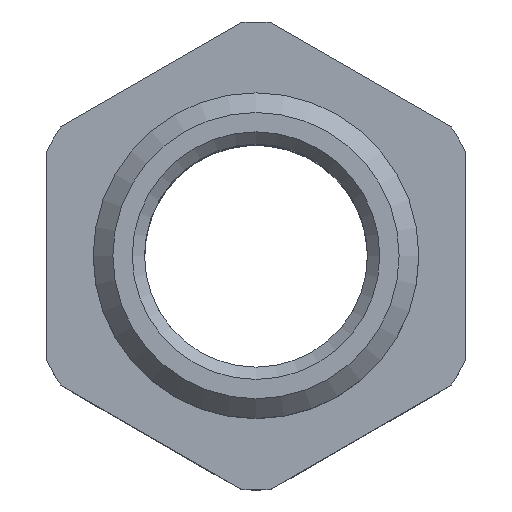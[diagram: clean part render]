
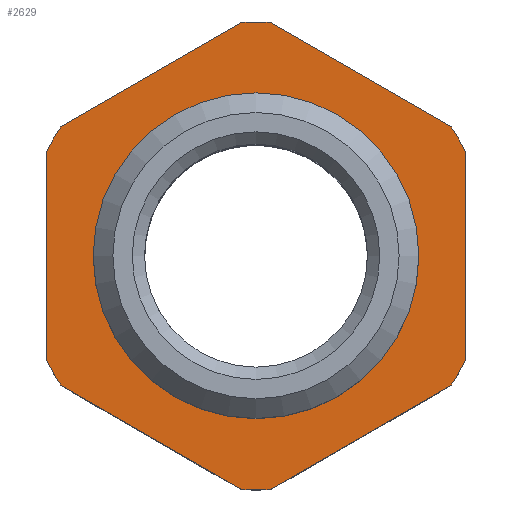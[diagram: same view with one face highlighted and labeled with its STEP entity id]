
A CAD part, top view. The second image highlights one B-rep face of the part: STEP entity #2629.
In plain terms, the highlighted planar face has unit normal (0, 0, 1).
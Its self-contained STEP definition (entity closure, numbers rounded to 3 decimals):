
#15 = VECTOR ( 'NONE', #2339, 1000. ) ;
#29 = CARTESIAN_POINT ( 'NONE',  ( 55.623, 51.032, 83.865 ) ) ;
#37 = DIRECTION ( 'NONE',  ( 1., 0., 0. ) ) ;
#49 = CARTESIAN_POINT ( 'NONE',  ( 71.472, 40.552, 83.865 ) ) ;
#54 = AXIS2_PLACEMENT_3D ( 'NONE', #2344, #76, #37 ) ;
#76 = DIRECTION ( 'NONE',  ( 0., 0., -1. ) ) ;
#81 = CARTESIAN_POINT ( 'NONE',  ( 72.623, 41.217, 83.865 ) ) ;
#94 = LINE ( 'NONE', #153, #221 ) ;
#132 = DIRECTION ( 'NONE',  ( 0., -1., 0. ) ) ;
#153 = CARTESIAN_POINT ( 'NONE',  ( 72.623, 60.847, 83.865 ) ) ;
#177 = DIRECTION ( 'NONE',  ( 0., 1., 0. ) ) ;
#187 = VECTOR ( 'NONE', #699, 1000. ) ;
#200 = CARTESIAN_POINT ( 'NONE',  ( 56.775, 69.997, 83.865 ) ) ;
#221 = VECTOR ( 'NONE', #132, 1000. ) ;
#233 = DIRECTION ( 'NONE',  ( 1., 0., 0. ) ) ;
#255 = EDGE_LOOP ( 'NONE', ( #2572 ) ) ;
#266 = DIRECTION ( 'NONE',  ( 1., 0., 0. ) ) ;
#294 = DIRECTION ( 'NONE',  ( -0.866, -0.5, 0. ) ) ;
#304 = CARTESIAN_POINT ( 'NONE',  ( 55.623, 51.032, 83.865 ) ) ;
#353 = LINE ( 'NONE', #1268, #15 ) ;
#363 = ORIENTED_EDGE ( 'NONE', *, *, #1072, .F. ) ;
#387 = ORIENTED_EDGE ( 'NONE', *, *, #2356, .F. ) ;
#444 = EDGE_CURVE ( 'NONE', #1798, #1368, #1224, .T. ) ;
#487 = CARTESIAN_POINT ( 'NONE',  ( 55.623, 51.032, 83.865 ) ) ;
#511 = FACE_BOUND ( 'NONE', #255, .T. ) ;
#581 = CIRCLE ( 'NONE', #54, 19. ) ;
#587 = LINE ( 'NONE', #2281, #794 ) ;
#634 = ORIENTED_EDGE ( 'NONE', *, *, #833, .F. ) ;
#699 = DIRECTION ( 'NONE',  ( 0.866, -0.5, 0. ) ) ;
#748 = ORIENTED_EDGE ( 'NONE', *, *, #2221, .F. ) ;
#771 = CARTESIAN_POINT ( 'NONE',  ( 55.623, 51.032, 83.865 ) ) ;
#794 = VECTOR ( 'NONE', #177, 1000. ) ;
#805 = LINE ( 'NONE', #1347, #187 ) ;
#816 = ORIENTED_EDGE ( 'NONE', *, *, #444, .F. ) ;
#833 = EDGE_CURVE ( 'NONE', #2639, #2060, #805, .T. ) ;
#842 = CARTESIAN_POINT ( 'NONE',  ( 55.623, 51.032, 83.865 ) ) ;
#905 = DIRECTION ( 'NONE',  ( 1., 0., 0. ) ) ;
#914 = DIRECTION ( 'NONE',  ( 0., 0., 1. ) ) ;
#988 = DIRECTION ( 'NONE',  ( 0., 0., -1. ) ) ;
#1039 = EDGE_CURVE ( 'NONE', #1424, #1574, #1984, .T. ) ;
#1048 = CARTESIAN_POINT ( 'NONE',  ( 39.775, 61.512, 83.865 ) ) ;
#1068 = CARTESIAN_POINT ( 'NONE',  ( 54.472, 69.997, 83.865 ) ) ;
#1072 = EDGE_CURVE ( 'NONE', #2463, #2009, #94, .T. ) ;
#1079 = EDGE_LOOP ( 'NONE', ( #1439, #363, #2476, #634, #387, #748, #1813, #1997, #2364, #1875, #2404, #816 ) ) ;
#1082 = CIRCLE ( 'NONE', #1100, 19. ) ;
#1100 = AXIS2_PLACEMENT_3D ( 'NONE', #29, #1932, #233 ) ;
#1211 = EDGE_CURVE ( 'NONE', #1574, #1982, #587, .T. ) ;
#1224 = LINE ( 'NONE', #81, #1712 ) ;
#1268 = CARTESIAN_POINT ( 'NONE',  ( 55.623, 31.402, 83.865 ) ) ;
#1335 = CARTESIAN_POINT ( 'NONE',  ( 72.623, 59.517, 83.865 ) ) ;
#1347 = CARTESIAN_POINT ( 'NONE',  ( 55.623, 70.662, 83.865 ) ) ;
#1368 = VERTEX_POINT ( 'NONE', #1898 ) ;
#1385 = CIRCLE ( 'NONE', #2687, 19. ) ;
#1389 = CIRCLE ( 'NONE', #2128, 11.5 ) ;
#1408 = DIRECTION ( 'NONE',  ( 0.866, 0.5, 0. ) ) ;
#1424 = VERTEX_POINT ( 'NONE', #2329 ) ;
#1428 = AXIS2_PLACEMENT_3D ( 'NONE', #771, #988, #1641 ) ;
#1439 = ORIENTED_EDGE ( 'NONE', *, *, #2017, .F. ) ;
#1484 = CARTESIAN_POINT ( 'NONE',  ( 54.472, 32.067, 83.865 ) ) ;
#1540 = CARTESIAN_POINT ( 'NONE',  ( 55.623, 51.032, 83.865 ) ) ;
#1557 = DIRECTION ( 'NONE',  ( -1., 0., 0. ) ) ;
#1569 = CARTESIAN_POINT ( 'NONE',  ( 71.472, 61.512, 83.865 ) ) ;
#1574 = VERTEX_POINT ( 'NONE', #2498 ) ;
#1597 = DIRECTION ( 'NONE',  ( 0., 0., -1. ) ) ;
#1625 = CARTESIAN_POINT ( 'NONE',  ( 44.123, 51.032, 83.865 ) ) ;
#1641 = DIRECTION ( 'NONE',  ( 1., 0., 0. ) ) ;
#1663 = VERTEX_POINT ( 'NONE', #1048 ) ;
#1712 = VECTOR ( 'NONE', #294, 1000. ) ;
#1721 = CARTESIAN_POINT ( 'NONE',  ( 38.623, 59.517, 83.865 ) ) ;
#1736 = AXIS2_PLACEMENT_3D ( 'NONE', #304, #1597, #1790 ) ;
#1768 = DIRECTION ( 'NONE',  ( 0., 0., -1. ) ) ;
#1790 = DIRECTION ( 'NONE',  ( 1., 0., 0. ) ) ;
#1798 = VERTEX_POINT ( 'NONE', #49 ) ;
#1813 = ORIENTED_EDGE ( 'NONE', *, *, #2291, .F. ) ;
#1820 = VERTEX_POINT ( 'NONE', #1625 ) ;
#1836 = EDGE_CURVE ( 'NONE', #1820, #1820, #1389, .T. ) ;
#1853 = LINE ( 'NONE', #2473, #2371 ) ;
#1875 = ORIENTED_EDGE ( 'NONE', *, *, #2652, .F. ) ;
#1898 = CARTESIAN_POINT ( 'NONE',  ( 56.775, 32.067, 83.865 ) ) ;
#1932 = DIRECTION ( 'NONE',  ( 0., 0., -1. ) ) ;
#1967 = EDGE_CURVE ( 'NONE', #2060, #2463, #2309, .T. ) ;
#1982 = VERTEX_POINT ( 'NONE', #1721 ) ;
#1984 = CIRCLE ( 'NONE', #1736, 19. ) ;
#1997 = ORIENTED_EDGE ( 'NONE', *, *, #1211, .F. ) ;
#2009 = VERTEX_POINT ( 'NONE', #2177 ) ;
#2017 = EDGE_CURVE ( 'NONE', #2009, #1798, #1385, .T. ) ;
#2060 = VERTEX_POINT ( 'NONE', #1569 ) ;
#2128 = AXIS2_PLACEMENT_3D ( 'NONE', #2601, #914, #1557 ) ;
#2167 = DIRECTION ( 'NONE',  ( 0., 0., -1. ) ) ;
#2177 = CARTESIAN_POINT ( 'NONE',  ( 72.623, 42.547, 83.865 ) ) ;
#2195 = EDGE_CURVE ( 'NONE', #1368, #2300, #2716, .T. ) ;
#2221 = EDGE_CURVE ( 'NONE', #1663, #2292, #1853, .T. ) ;
#2281 = CARTESIAN_POINT ( 'NONE',  ( 38.623, 41.217, 83.865 ) ) ;
#2291 = EDGE_CURVE ( 'NONE', #1982, #1663, #1082, .T. ) ;
#2292 = VERTEX_POINT ( 'NONE', #1068 ) ;
#2300 = VERTEX_POINT ( 'NONE', #1484 ) ;
#2309 = CIRCLE ( 'NONE', #2420, 19. ) ;
#2323 = DIRECTION ( 'NONE',  ( 0., 0., -1. ) ) ;
#2329 = CARTESIAN_POINT ( 'NONE',  ( 39.775, 40.552, 83.865 ) ) ;
#2339 = DIRECTION ( 'NONE',  ( -0.866, 0.5, 0. ) ) ;
#2344 = CARTESIAN_POINT ( 'NONE',  ( 55.623, 51.032, 83.865 ) ) ;
#2356 = EDGE_CURVE ( 'NONE', #2292, #2639, #581, .T. ) ;
#2364 = ORIENTED_EDGE ( 'NONE', *, *, #1039, .F. ) ;
#2371 = VECTOR ( 'NONE', #1408, 1000. ) ;
#2404 = ORIENTED_EDGE ( 'NONE', *, *, #2195, .F. ) ;
#2420 = AXIS2_PLACEMENT_3D ( 'NONE', #487, #2167, #905 ) ;
#2463 = VERTEX_POINT ( 'NONE', #1335 ) ;
#2473 = CARTESIAN_POINT ( 'NONE',  ( 38.623, 60.847, 83.865 ) ) ;
#2476 = ORIENTED_EDGE ( 'NONE', *, *, #1967, .F. ) ;
#2498 = CARTESIAN_POINT ( 'NONE',  ( 38.623, 42.547, 83.865 ) ) ;
#2562 = AXIS2_PLACEMENT_3D ( 'NONE', #842, #2323, #266 ) ;
#2572 = ORIENTED_EDGE ( 'NONE', *, *, #1836, .F. ) ;
#2579 = FACE_OUTER_BOUND ( 'NONE', #1079, .T. ) ;
#2601 = CARTESIAN_POINT ( 'NONE',  ( 55.623, 51.032, 83.865 ) ) ;
#2629 = ADVANCED_FACE ( 'NONE', ( #2579, #511 ), #2756, .F. ) ;
#2639 = VERTEX_POINT ( 'NONE', #200 ) ;
#2650 = DIRECTION ( 'NONE',  ( 1., 0., 0. ) ) ;
#2652 = EDGE_CURVE ( 'NONE', #2300, #1424, #353, .T. ) ;
#2687 = AXIS2_PLACEMENT_3D ( 'NONE', #1540, #1768, #2650 ) ;
#2716 = CIRCLE ( 'NONE', #1428, 19. ) ;
#2756 = PLANE ( 'NONE',  #2562 ) ;
